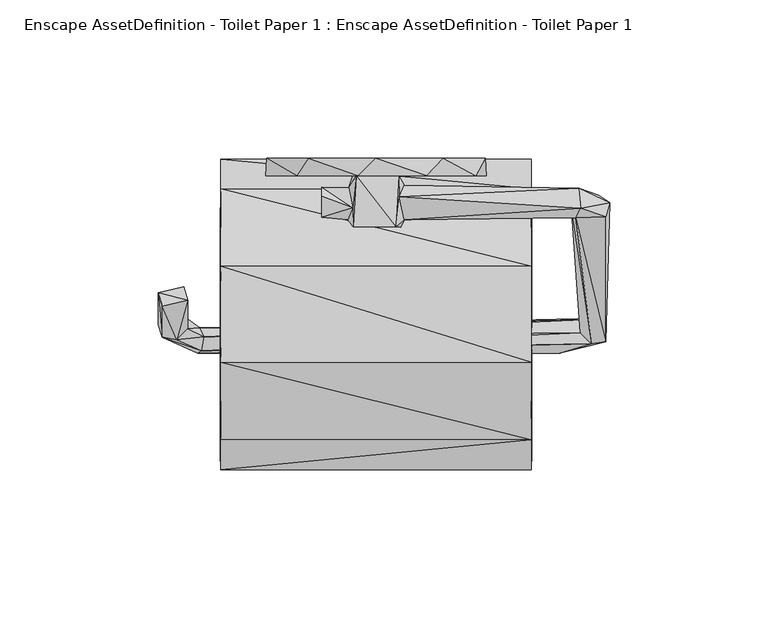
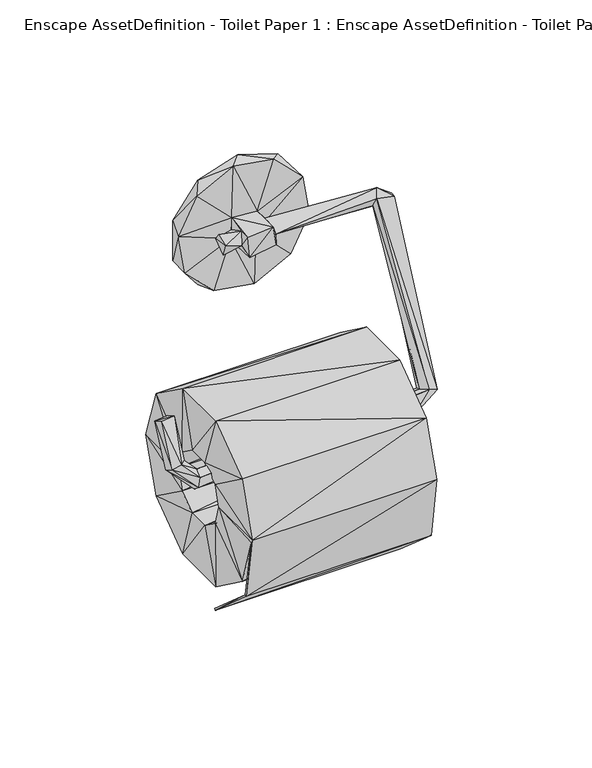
"""IFC4 building model written with IfcOpenShell, lengths in millimetres: geographic element geometry, Enscape AssetDefinition - Toilet Paper 1 : Enscape AssetDefinition - Toilet Paper 1."""

from ifc_helpers import new_model, si_unit, origin, place, context, project, spatial, faceted_brep, source, transform, mapped, element, save


def enscape_assetdefinition_toilet_paper_1_enscape_1f315c8c(model_context):
    return source(origin(), model_context, "Body", "Brep", [
        faceted_brep([(7.2812387, -12.1629322, 5.1993392), (63.9222711, -9.346419, -0.825089), (8.957969, -8.3856182, 0.0), (64.6814704, -15.6471878, 4.4627576), (73.7220496, -13.9448894, -2.7398069), (70.3636706, -11.5738651, -5.6015574), (65.7770038, -13.606593, -7.0521017), (8.957969, -19.3192773, 0.0), (63.0440786, -18.6997224, 0.825089), (72.4927709, -18.3486417, -1.3295831), (70.3636706, -50.4100844, -88.8863727), (72.4927709, -57.8840747, -86.1131325), (65.7770038, -50.9371981, -87.1083587), (57.8319542, -57.8408018, -96.875675), (-55.6340106, -53.3780493, -95.2510685), (-54.1510135, -56.191612, -87.5213891), (64.547725, -54.9377501, -84.8327205), (-59.467379, -53.7645333, -82.3161528), (-55.0065897, -60.6543645, -89.1460031), (-62.8257617, -57.1425743, -81.6149712), (61.8452914, -17.0760974, -3.6376689), (67.906104, -58.4111884, -84.3351111), (-67.4124286, -56.4866327, -83.116658), (-56.1768562, -61.4784732, -93.8231423), (-67.4124286, -46.5973653, -61.9092099), (-59.467379, -44.6678996, -62.8090352), (-68.6416999, -42.4394682, -63.8475344), (-68.6416999, -52.4516664, -85.3175446), (-56.4905666, -57.8408018, -96.875675), (57.8319542, -61.4784732, -93.8231423), (-65.2843118, -49.0726344, -86.0187188), (-60.696654, -40.5099988, -64.7473559), (-60.696654, -49.7295596, -84.5180303), (7.2812387, -12.1629322, -5.1993392), (6.2565152, -21.6303132, 6.2565152), (7.8830905, -21.6303132, -4.0162853), (6.2565152, -5.4422435, -6.2565152), (-6.2565152, -21.6303132, -6.2565152), (-7.2812387, -12.1629322, -5.1993392), (-8.957969, -19.3192773, 0.0), (-7.2468184, -5.4422435, -5.265228), (-7.1740458, -21.6303132, 5.2435934), (-17.0888808, -16.101528, -4.4558737), (-17.0888808, -18.4794385, 2.0779655), (-7.2812387, -15.5419623, 5.1993392), (-17.0888808, -9.1251498, 0.4287709), (-8.5193636, -9.2854472, 2.7683261), (-17.0888808, -11.9455969, 4.4558737), (-6.2565152, -5.4422435, 6.2565152), (7.2478019, -5.4422435, 5.265228), (-5.5169836, -5.4422435, 34.8337032), (31.4241871, -5.4422435, 16.0110537), (16.0110537, -5.4422435, 31.4241871), (5.5169836, -5.4422435, -34.8337032), (24.9385368, -5.4422435, -24.9375533), (34.8337032, -5.4422435, -5.5169836), (34.4816409, 0.0, 11.2040984), (21.310702, 0.0, 29.3314718), (0.0, 0.0, 36.2557285), (-34.4816409, 0.0, 11.2040984), (-21.310702, 0.0, 29.3314718), (-21.310702, 0.0, -29.3314718), (-34.4816409, 0.0, -11.2031149), (-34.8337032, -5.4422435, 5.5169836), (-24.9375533, -5.4422435, 24.9385368), (-31.4241871, -5.4422435, -16.0110537), (-16.0110537, -5.4422435, -31.4232074), (0.0, 0.0, -36.2557285), (21.310702, 0.0, -29.3314718), (34.4816409, 0.0, -11.2031149)], [[[0, 1, 2]], [[0, 3, 1]], [[3, 4, 1]], [[5, 1, 4]], [[2, 1, 6]], [[6, 1, 5]], [[7, 3, 0]], [[8, 9, 3]], [[7, 8, 3]], [[4, 3, 9]], [[10, 4, 11]], [[5, 4, 10]], [[4, 9, 11]], [[12, 5, 10]], [[6, 5, 12]], [[10, 11, 13]], [[13, 14, 10]], [[10, 14, 12]], [[15, 12, 14]], [[16, 6, 12]], [[12, 15, 16]], [[15, 14, 17]], [[18, 16, 15]], [[18, 15, 19]], [[19, 15, 17]], [[20, 6, 16]], [[21, 20, 16]], [[16, 18, 21]], [[22, 18, 19]], [[23, 21, 18]], [[23, 18, 22]], [[24, 19, 25]], [[19, 24, 22]], [[17, 25, 19]], [[22, 26, 27]], [[27, 23, 22]], [[26, 22, 24]], [[28, 29, 23]], [[21, 23, 29]], [[28, 23, 27]], [[30, 28, 27]], [[27, 26, 30]], [[31, 30, 26]], [[25, 26, 24]], [[25, 31, 26]], [[32, 25, 17]], [[25, 32, 31]], [[30, 31, 32]], [[32, 14, 30]], [[14, 28, 30]], [[14, 13, 28]], [[29, 28, 13]], [[11, 21, 29]], [[13, 11, 29]], [[11, 8, 21]], [[8, 20, 21]], [[9, 8, 11]], [[7, 20, 8]], [[33, 20, 7]], [[33, 6, 20]], [[0, 34, 7]], [[35, 33, 7]], [[35, 7, 34]], [[2, 6, 33]], [[33, 36, 2]], [[35, 36, 33]], [[35, 34, 37]], [[37, 36, 35]], [[38, 37, 39]], [[37, 40, 36]], [[37, 34, 41]], [[38, 40, 37]], [[37, 41, 39]], [[42, 38, 39]], [[43, 42, 39]], [[43, 39, 44]], [[44, 39, 41]], [[42, 45, 38]], [[38, 45, 46]], [[46, 40, 38]], [[43, 45, 42]], [[43, 47, 45]], [[47, 43, 44]], [[45, 44, 46]], [[45, 47, 44]], [[44, 48, 46]], [[41, 48, 44]], [[34, 48, 41]], [[34, 49, 48]], [[0, 49, 34]], [[2, 49, 0]], [[2, 36, 49]], [[49, 50, 48]], [[49, 51, 52]], [[36, 51, 49]], [[49, 52, 50]], [[40, 53, 36]], [[36, 54, 55]], [[36, 55, 51]], [[36, 53, 54]], [[51, 56, 57]], [[55, 56, 51]], [[51, 57, 52]], [[52, 58, 50]], [[52, 57, 58]], [[56, 58, 57]], [[56, 59, 58]], [[58, 59, 60]], [[50, 58, 60]], [[56, 61, 59]], [[59, 61, 62]], [[63, 59, 62]], [[64, 59, 63]], [[64, 60, 59]], [[50, 60, 64]], [[48, 50, 64]], [[48, 64, 63]], [[40, 63, 65]], [[48, 63, 40]], [[63, 62, 65]], [[65, 62, 61]], [[40, 65, 66]], [[65, 61, 66]], [[40, 66, 53]], [[46, 48, 40]], [[66, 61, 67]], [[66, 67, 53]], [[53, 68, 54]], [[53, 67, 68]], [[61, 68, 67]], [[56, 68, 61]], [[56, 69, 68]], [[54, 68, 69]], [[54, 69, 55]], [[55, 69, 56]], [[17, 14, 32]]]),
        faceted_brep([(-49.1709784, -54.9141504, -121.6116324), (-48.9742942, -34.0371355, -150.511384), (-48.9742942, -64.3048212, -150.511384), (-49.1709784, -43.4268266, -121.6116324), (-48.9742942, -9.5499866, -132.7203363), (48.9742942, -34.0371355, -150.511384), (48.9742942, -9.5499866, -132.7203363), (-49.1709784, -34.1335088, -114.8594692), (49.1709784, -34.1335088, -114.8594692), (49.1709784, -43.4268266, -121.6116324), (-48.9742942, -0.1966839, -103.9346606), (48.9742942, -0.1966839, -103.9346606), (49.1709784, -30.5843465, -103.9346606), (48.9742942, -64.3048212, -150.511384), (49.1709784, -54.9141504, -121.6116324), (-48.9742942, -88.7919664, -132.7203363), (48.9742942, -88.7919664, -132.7203363), (-49.1709784, -64.2084479, -114.8594692), (49.1709784, -64.2084479, -114.8594692), (48.9742942, -96.9445109, -106.0716361), (-48.9742942, -96.9445109, -106.0716361), (-49.1709784, -67.7576065, -103.9346606), (49.1709784, -67.7576065, -103.9346606), (48.9742942, -98.1452689, -103.9346606), (-49.1709784, -92.1818167, -138.2176578), (49.1709784, -92.1818167, -138.2176578), (-48.9742942, -98.1452689, -103.9346606), (-49.1709784, -92.9587185, -138.6424899), (-49.1709784, -64.2084479, -93.0088684), (-48.9742942, -88.7919664, -75.1480013), (48.9742942, -88.7919664, -75.1480013), (49.1709784, -92.9587185, -138.6415064), (-49.1709784, -64.3657967, -163.7442708), (49.1709784, -64.3657967, -163.7442708), (49.1709784, -63.7816414, -163.0794704), (-49.1709784, -63.7816414, -163.0794704), (49.1709784, -64.2084479, -93.0088684), (48.9742942, -64.3048212, -57.3569611), (49.1709784, -54.9151301, -86.2567127), (-49.1709784, -54.9151301, -86.2567127), (-48.9742942, -34.0371355, -57.3569611), (-48.9742942, -64.3048212, -57.3569611), (48.9742942, -34.0371355, -57.3569611), (-49.1709784, -34.1335088, -93.0088684), (-49.1709784, -43.4268266, -86.2567127), (-48.9742942, -9.5499866, -75.1480013), (49.1709784, -43.4268266, -86.2567127), (-49.1709784, -30.5843465, -103.9346606), (49.1709784, -34.1335088, -93.0088684), (48.9742942, -9.5499866, -75.1480013)], [[[0, 1, 2]], [[1, 0, 3]], [[3, 4, 1]], [[5, 2, 1]], [[6, 1, 4]], [[1, 6, 5]], [[4, 3, 7]], [[8, 3, 9]], [[3, 8, 7]], [[0, 9, 3]], [[7, 10, 4]], [[11, 4, 10]], [[4, 11, 6]], [[8, 5, 6]], [[12, 6, 11]], [[6, 12, 8]], [[5, 8, 9]], [[12, 7, 8]], [[2, 5, 13]], [[9, 13, 5]], [[13, 9, 14]], [[9, 0, 14]], [[13, 15, 2]], [[15, 13, 16]], [[14, 16, 13]], [[2, 17, 0]], [[17, 2, 15]], [[17, 14, 0]], [[16, 14, 18]], [[14, 17, 18]], [[19, 15, 16]], [[18, 19, 16]], [[15, 19, 20]], [[15, 21, 17]], [[21, 15, 20]], [[21, 18, 17]], [[18, 21, 22]], [[19, 18, 22]], [[22, 23, 19]], [[19, 24, 20]], [[24, 19, 25]], [[23, 25, 19]], [[26, 21, 20]], [[27, 20, 24]], [[20, 27, 26]], [[26, 28, 21]], [[28, 22, 21]], [[28, 26, 29]], [[30, 26, 23]], [[26, 30, 29]], [[27, 23, 26]], [[23, 27, 31]], [[32, 31, 27]], [[24, 32, 27]], [[31, 32, 33]], [[25, 23, 31]], [[31, 34, 25]], [[34, 31, 33]], [[35, 33, 32]], [[32, 24, 35]], [[33, 35, 34]], [[35, 25, 34]], [[25, 35, 24]], [[22, 30, 23]], [[30, 22, 36]], [[22, 28, 36]], [[36, 37, 30]], [[37, 36, 38]], [[36, 39, 38]], [[39, 36, 28]], [[37, 40, 41]], [[40, 37, 42]], [[41, 30, 37]], [[38, 42, 37]], [[40, 43, 44]], [[43, 40, 45]], [[44, 41, 40]], [[42, 45, 40]], [[41, 44, 39]], [[39, 29, 41]], [[30, 41, 29]], [[38, 44, 46]], [[44, 38, 39]], [[43, 46, 44]], [[45, 47, 43]], [[46, 43, 48]], [[47, 48, 43]], [[47, 45, 10]], [[49, 10, 45]], [[45, 42, 49]], [[10, 7, 47]], [[48, 47, 12]], [[7, 12, 47]], [[48, 11, 49]], [[11, 48, 12]], [[49, 46, 48]], [[46, 49, 42]], [[42, 38, 46]], [[10, 49, 11]], [[29, 39, 28]]]),
    ])


if __name__ == "__main__":
    model = new_model("IFC4")
    model_context = context("Model", 3, world=origin())
    ifc_project = project(units=[si_unit("LENGTHUNIT", "METRE", prefix="MILLI")], contexts=[model_context])
    site = spatial("IfcSite", under=ifc_project)
    building = spatial("IfcBuilding", under=site)
    placement = place(None, origin())
    enscape_assetdefinition_toilet_paper_1_enscape_shape = enscape_assetdefinition_toilet_paper_1_enscape_1f315c8c(model_context)
    element("IfcGeographicElement", 1, ObjectType="Enscape AssetDefinition - Toilet Paper 1 : Enscape AssetDefinition - Toilet Paper 1", at=placement, inside=building, context=model_context, shape_type="MappedRepresentation", body=[
        mapped(enscape_assetdefinition_toilet_paper_1_enscape_shape, transform((0.0, 0.0, 0.0), x_axis=(1.0, 0.0, 0.0), y_axis=(0.0, 1.0, 0.0), z_axis=(0.0, 0.0, 1.0))),
    ])
    save(model, "model.ifc")
